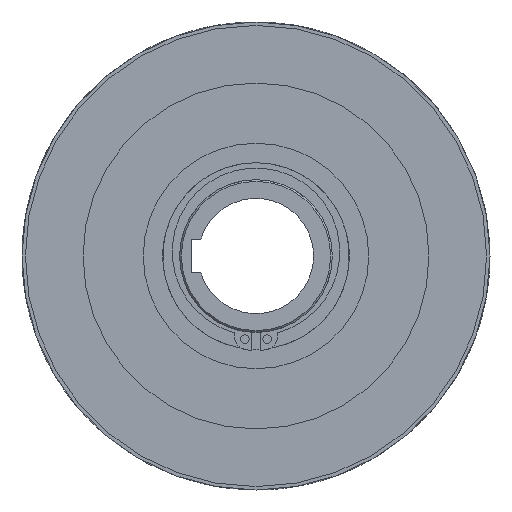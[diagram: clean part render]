
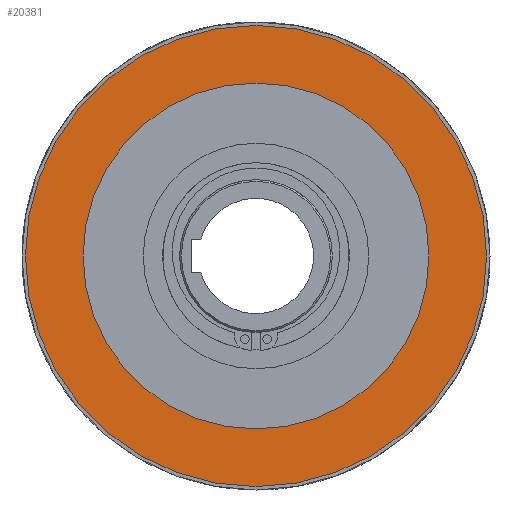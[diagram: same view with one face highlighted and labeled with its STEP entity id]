
A CAD part, left-side view. The second image highlights one B-rep face of the part: STEP entity #20381.
In plain terms, the highlighted planar face has unit normal (-1, 0, 0).
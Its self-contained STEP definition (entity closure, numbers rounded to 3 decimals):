
#738=FACE_BOUND('',#3730,.T.);
#2155=PLANE('',#21700);
#2612=FACE_OUTER_BOUND('',#3729,.T.);
#3729=EDGE_LOOP('',(#13943));
#3730=EDGE_LOOP('',(#13944));
#5116=CIRCLE('',#21699,51.);
#5117=CIRCLE('',#21701,68.);
#7754=VERTEX_POINT('',#63279);
#7755=VERTEX_POINT('',#63283);
#10147=EDGE_CURVE('',#7754,#7754,#5116,.T.);
#10148=EDGE_CURVE('',#7755,#7755,#5117,.T.);
#13943=ORIENTED_EDGE('',*,*,#10148,.F.);
#13944=ORIENTED_EDGE('',*,*,#10147,.T.);
#20381=ADVANCED_FACE('',(#2612,#738),#2155,.T.);
#21699=AXIS2_PLACEMENT_3D('',#63281,#24700,#24701);
#21700=AXIS2_PLACEMENT_3D('',#63282,#24702,#24703);
#21701=AXIS2_PLACEMENT_3D('',#63284,#24704,#24705);
#24700=DIRECTION('center_axis',(1.,0.,0.));
#24701=DIRECTION('ref_axis',(0.,1.,0.));
#24702=DIRECTION('center_axis',(-1.,0.,0.));
#24703=DIRECTION('ref_axis',(0.,0.,
1.));
#24704=DIRECTION('center_axis',(1.,0.,0.));
#24705=DIRECTION('ref_axis',(0.,1.,0.));
#63279=CARTESIAN_POINT('',(-40.,-51.,0.));
#63281=CARTESIAN_POINT('Origin',(-40.,0.,0.));
#63282=CARTESIAN_POINT('Origin',(-40.,59.5,0.));
#63283=CARTESIAN_POINT('',(-40.,68.,0.));
#63284=CARTESIAN_POINT('Origin',(-40.,0.,0.));
